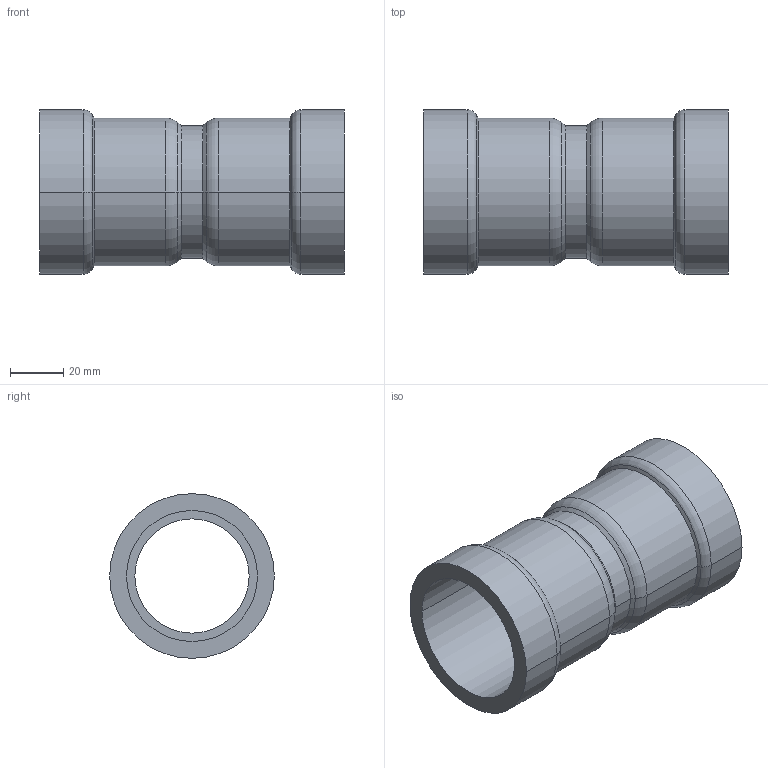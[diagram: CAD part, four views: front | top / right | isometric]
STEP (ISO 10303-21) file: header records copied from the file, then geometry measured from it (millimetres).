
FILE_DESCRIPTION(('Creo Elements/Direct Modeling STEP Export'),'2;1');
FILE_NAME('C9401_1_1-2.stp','2020-06-08T13:55:17',(''),(''),'PTC Creo Elements/Direct Modeling STEP processor for AP214 (Solid Model)','PTC Creo Elements/Direct Modeling 19.0C 15-Aug-2015 (C) Parametric Technology GmbH','');
FILE_SCHEMA(('AUTOMOTIVE_DESIGN { 1 0 10303 214 1 1 1 1 }'));
Length unit declared in the file: millimetre
Products named in the file (1): 9401_1_1-2
Bounding box: 114.79 x 62 x 62 mm (x, y, z)
Volume: 84216.1 mm3; surface area: 42058.5 mm2
Topology: 1 solids, 1 shells, 36 faces, 72 edges, 40 vertices
Faces by surface type: cylinder 16, cone 8, torus 8, plane 4
Entity records: 848 total; most frequent: DIRECTION 150, ORIENTED_EDGE 144, CARTESIAN_POINT 127, EDGE_CURVE 72, AXIS2_PLACEMENT_3D 63, VERTEX_POINT 40, EDGE_LOOP 40, FACE_OUTER_BOUND 36
